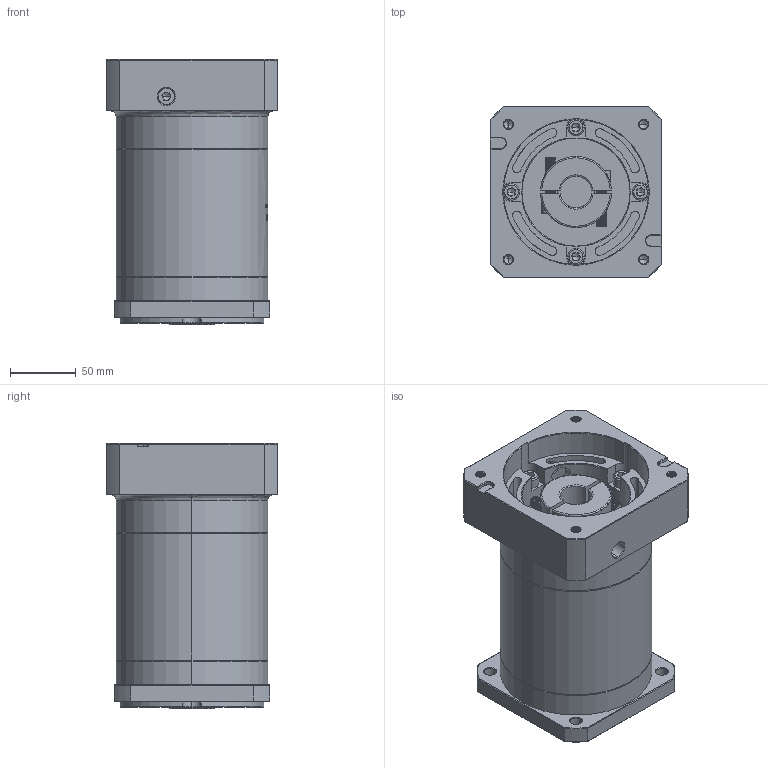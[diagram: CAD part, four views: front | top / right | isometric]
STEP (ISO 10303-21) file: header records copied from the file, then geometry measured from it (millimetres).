
FILE_DESCRIPTION (( 'STEP AP214' ), '1' );
FILE_NAME ('ZF120A-K25-L3-24-110-145-M8.step', '2023-03-07T09:39:48', ( '' ), ( '' ), 'SwSTEP 2.0', 'SolidWorks 2016', '' );
FILE_SCHEMA (( 'AUTOMOTIVE_DESIGN' ));
Length unit declared in the file: millimetre
Products named in the file (1): ZF120A-K25-L3-24-110-145-M8
Bounding box: 130 x 130 x 201 mm (x, y, z)
Volume: 2001994.7 mm3; surface area: 200163.8 mm2
Topology: 6 solids, 6 shells, 1947 faces, 5128 edges, 3273 vertices
Faces by surface type: plane 876, cylinder 416, cone 321, bspline 314, torus 20
Entity records: 104936 total; most frequent: CARTESIAN_POINT 39003, ORIENTED_EDGE 10200, DIRECTION 7977, EDGE_CURVE 5100, VERTEX_POINT 3273, VECTOR 2771, LINE 2771, AXIS2_PLACEMENT_3D 2603
